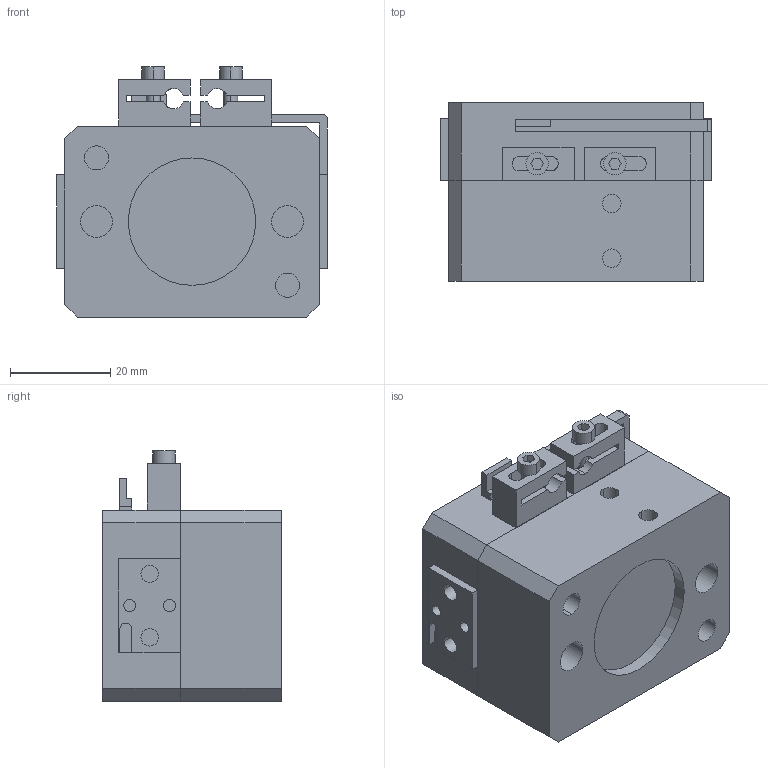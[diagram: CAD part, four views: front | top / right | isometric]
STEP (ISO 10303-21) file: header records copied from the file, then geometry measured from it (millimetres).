
FILE_DESCRIPTION (( 'STEP AP203' ), '1' );
FILE_NAME ('AGP-375 CLOSED in IN.STEP', '2014-10-31T19:12:51', ( 'setup' ), ( '' ), 'SwSTEP 2.0', 'SolidWorks 2013', '' );
FILE_SCHEMA (( 'CONFIG_CONTROL_DESIGN' ));
Length unit declared in the file: inch
Products named in the file (11): WGL50-JAW2; AGP-375 CLOSED in IN; WGL50-S; WGL50-BOT. BODY; WGL50-SEN2; WGL50-SQ; WGL50-SEN1; WGL50-SQ2; WGL50-JAW1; WGL50-S2; WGL50-TOP BODY
Assembly tree (18 placements, depth 2):
  AGP-375 CLOSED in IN
    WGL50-BOT. BODY
    WGL50-SQ
    WGL50-SEN1
    WGL50-SQ2
    WGL50-JAW1
    WGL50-S2  x8
    WGL50-TOP BODY
    WGL50-JAW2
    WGL50-S  x2
    WGL50-SEN2
Bounding box: 53.98 x 35.61 x 49.91 mm (x, y, z)
Volume: 65883.3 mm3; surface area: 26375.9 mm2
Topology: 18 solids, 18 shells, 375 faces, 872 edges, 580 vertices
Faces by surface type: plane 261, cylinder 114
Entity records: 9837 total; most frequent: CARTESIAN_POINT 1544, DIRECTION 1484, ORIENTED_EDGE 1360, EDGE_CURVE 680, AXIS2_PLACEMENT_3D 504, VECTOR 476, LINE 476, VERTEX_POINT 452
